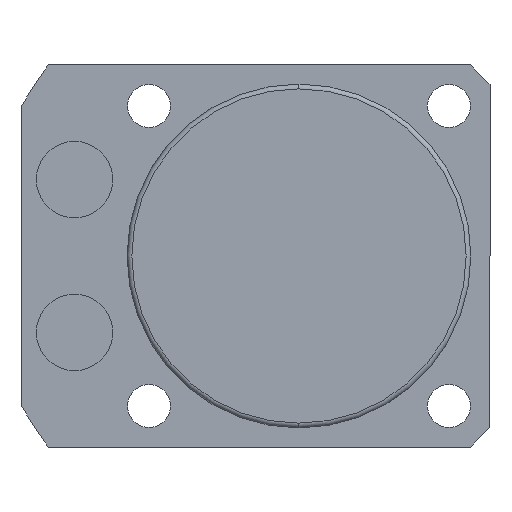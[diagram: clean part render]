
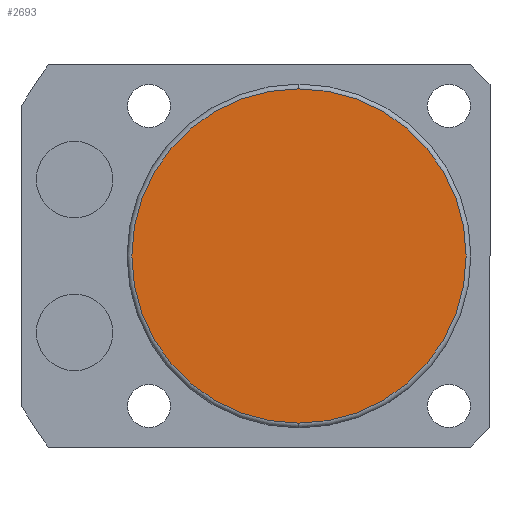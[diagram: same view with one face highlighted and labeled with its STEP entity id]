
A CAD part, front view. The second image highlights one B-rep face of the part: STEP entity #2693.
In plain terms, the highlighted planar face has unit normal (0, -1, 0).
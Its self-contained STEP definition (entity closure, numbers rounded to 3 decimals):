
#83 = CARTESIAN_POINT ( 'NONE',  ( 0., -120.5, 17.5 ) ) ;
#152 = ORIENTED_EDGE ( 'NONE', *, *, #871, .T. ) ;
#439 = DIRECTION ( 'NONE',  ( 0., -1., 0. ) ) ;
#460 = DIRECTION ( 'NONE',  ( 0., 0., -1. ) ) ;
#528 = AXIS2_PLACEMENT_3D ( 'NONE', #1890, #2101, #1064 ) ;
#871 = EDGE_CURVE ( 'NONE', #1498, #2180, #1859, .T. ) ;
#1064 = DIRECTION ( 'NONE',  ( 0., 0., -1. ) ) ;
#1075 = PLANE ( 'NONE',  #1772 ) ;
#1284 = CARTESIAN_POINT ( 'NONE',  ( 0., -120.5, 0. ) ) ;
#1355 = CIRCLE ( 'NONE', #528, 17.5 ) ;
#1372 = EDGE_LOOP ( 'NONE', ( #152, #1539 ) ) ;
#1498 = VERTEX_POINT ( 'NONE', #2103 ) ;
#1539 = ORIENTED_EDGE ( 'NONE', *, *, #1750, .T. ) ;
#1743 = FACE_OUTER_BOUND ( 'NONE', #1372, .T. ) ;
#1750 = EDGE_CURVE ( 'NONE', #2180, #1498, #1355, .T. ) ;
#1766 = DIRECTION ( 'NONE',  ( 0., -1., 0. ) ) ;
#1772 = AXIS2_PLACEMENT_3D ( 'NONE', #1284, #1766, #1964 ) ;
#1859 = CIRCLE ( 'NONE', #2577, 17.5 ) ;
#1890 = CARTESIAN_POINT ( 'NONE',  ( 0., -120.5, 0. ) ) ;
#1891 = CARTESIAN_POINT ( 'NONE',  ( 0., -120.5, 0. ) ) ;
#1964 = DIRECTION ( 'NONE',  ( 0., 0., -1. ) ) ;
#2101 = DIRECTION ( 'NONE',  ( 0., -1., 0. ) ) ;
#2103 = CARTESIAN_POINT ( 'NONE',  ( 0., -120.5, -17.5 ) ) ;
#2180 = VERTEX_POINT ( 'NONE', #83 ) ;
#2577 = AXIS2_PLACEMENT_3D ( 'NONE', #1891, #439, #460 ) ;
#2693 = ADVANCED_FACE ( 'NONE', ( #1743 ), #1075, .T. ) ;
